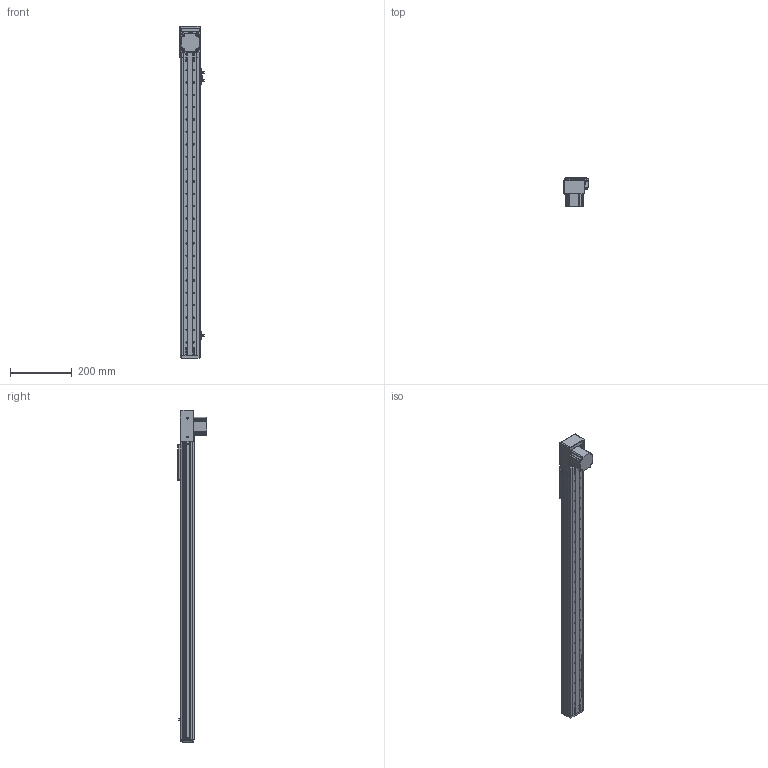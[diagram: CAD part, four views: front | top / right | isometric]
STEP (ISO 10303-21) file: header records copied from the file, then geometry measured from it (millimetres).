
FILE_DESCRIPTION (( 'STEP AP203' ), '1' );
FILE_NAME ('RY60F-T-350-DK.SLDASM_800.step', '2021-03-02T00:56:05', ( '盈信电脑' ), ( '东莞市道滘镇水果街19号' ), 'SwSTEP 2.0', 'SolidWorks 2012', '' );
FILE_SCHEMA (( 'CONFIG_CONTROL_DESIGN' ));
Length unit declared in the file: millimetre
Products named in the file (19): RY60F-T-350-DK.SLDASM_800; RY60F-T-狟殏欶; 57祭輛萇儂; RY60F-肮祭湍揤輸; RY60F-肮祭湍揤輸2; RY60F-T-下折同步带拉紧板; 滅袉蝶18-24; RY50F-350-MR15W絳寢-DK_800; RY60F-T-57萇儂奻殏假蚾啣; RY60F-350-肮祭湍滅鳥詩え-DK_800; 覜茼ん672; RY60F-T-下折57电机端同步轮座; RY60F-祥凄詩滅鳥裔; RY60F-350肮祭湍俋褲-DK_800; RY60F-浮动端同步轮支撑座; RY50-60詩湍揤啣; RY60F-嫖萇羲壽結え; RY60F-滅鳥詩え盓殤; RY60F-肮祭湍臏賑輸
Assembly tree (23 placements, depth 2):
  RY60F-T-350-DK.SLDASM_800
    RY60F-肮祭湍臏賑輸
    RY60F-浮动端同步轮支撑座
    RY60F-滅鳥詩え盓殤
    RY60F-嫖萇羲壽結え
    RY50-60詩湍揤啣  x2
    RY60F-祥凄詩滅鳥裔
    RY60F-T-下折57电机端同步轮座
    RY60F-350肮祭湍俋褲-DK_800  x2
    覜茼ん672  x3
    RY60F-350-肮祭湍滅鳥詩え-DK_800
    RY50F-350-MR15W絳寢-DK_800
    滅袉蝶18-24  x2
    RY60F-T-57萇儂奻殏假蚾啣
    RY60F-T-下折同步带拉紧板
    RY60F-肮祭湍揤輸
    RY60F-肮祭湍揤輸2
    57祭輛萇儂
    RY60F-T-狟殏欶
Bounding box: 80.76 x 96.5 x 1073 mm (x, y, z)
Volume: 1013629.3 mm3; surface area: 672496.2 mm2
Topology: 23 solids, 23 shells, 1198 faces, 3290 edges, 2116 vertices
Faces by surface type: cylinder 571, plane 546, cone 71, bspline 10
Entity records: 37017 total; most frequent: CARTESIAN_POINT 6697, DIRECTION 6000, ORIENTED_EDGE 5756, EDGE_CURVE 2878, AXIS2_PLACEMENT_3D 2127, VERTEX_POINT 1884, VECTOR 1746, LINE 1746
